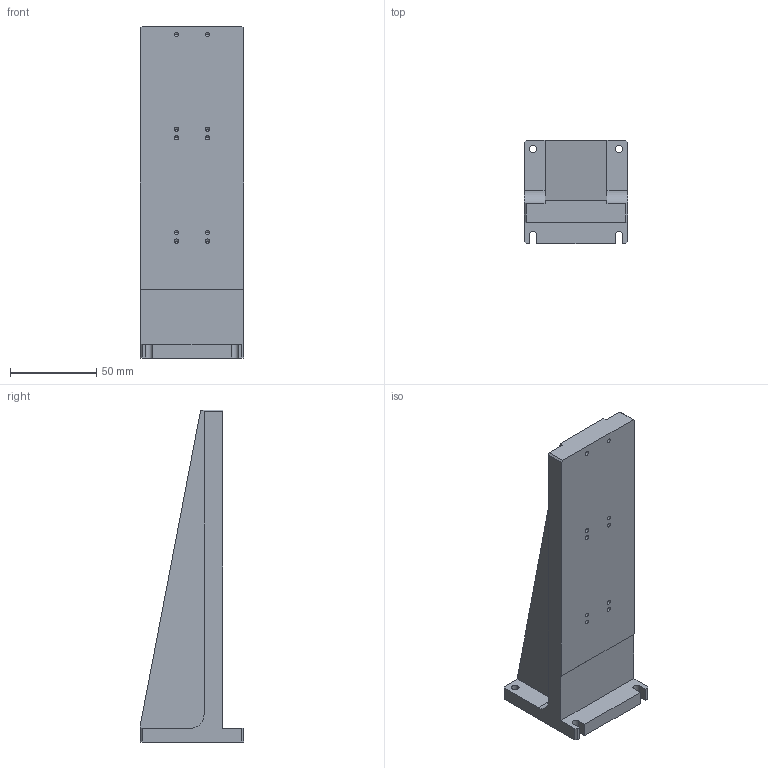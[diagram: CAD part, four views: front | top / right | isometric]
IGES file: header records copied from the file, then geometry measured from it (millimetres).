
Global section: file name: No Iges File Name specified; native system: AutoDesk Inventor R11.0; preprocessor: AutoDesk Inventor Iges Exporter R11.0; author: No Author specified; organization: No Organization specified; date: 20070227.112759; units: millimetre
Bounding box: 60 x 60 x 193 mm (x, y, z)
Volume: 280334.3 mm3; surface area: 42155.5 mm2
Topology: 1 solids, 1 shells, 77 faces, 205 edges, 120 vertices
Faces by surface type: bspline 44, plane 29, revolution 4
